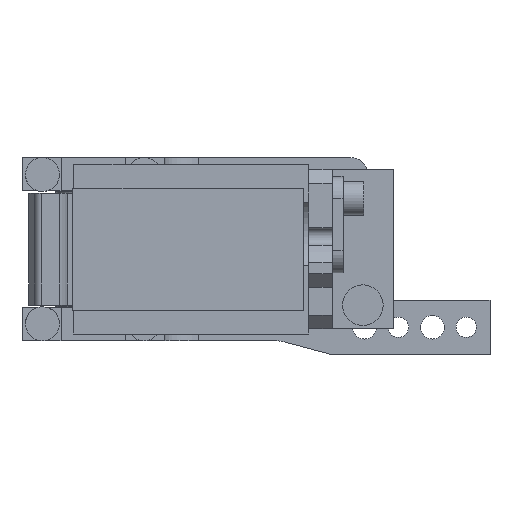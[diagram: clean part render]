
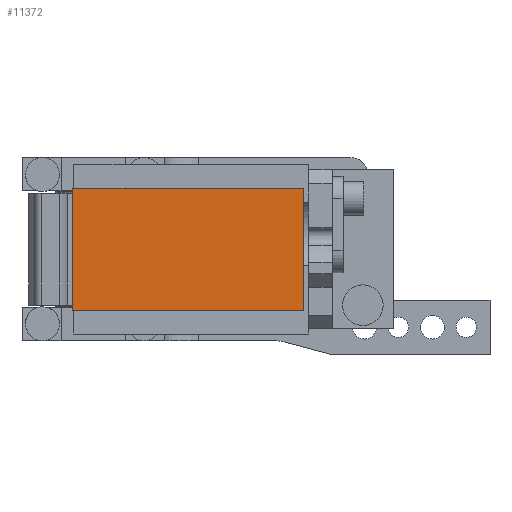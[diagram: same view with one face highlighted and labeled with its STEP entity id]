
A CAD part, front view. The second image highlights one B-rep face of the part: STEP entity #11372.
In plain terms, the highlighted planar face has unit normal (0, -1, 0).
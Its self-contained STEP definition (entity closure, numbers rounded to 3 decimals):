
#168 = AXIS2_PLACEMENT_3D ( 'NONE', #5658, #9067, #6812 ) ;
#414 = LINE ( 'NONE', #2717, #13204 ) ;
#854 = EDGE_LOOP ( 'NONE', ( #2068, #2301, #13724, #7674 ) ) ;
#1333 = DIRECTION ( 'NONE',  ( 0., 0., -1. ) ) ;
#2068 = ORIENTED_EDGE ( 'NONE', *, *, #8381, .T. ) ;
#2301 = ORIENTED_EDGE ( 'NONE', *, *, #8439, .T. ) ;
#2717 = CARTESIAN_POINT ( 'NONE',  ( -6., -233., 18. ) ) ;
#2744 = DIRECTION ( 'NONE',  ( 0., 0., 1. ) ) ;
#3299 = CARTESIAN_POINT ( 'NONE',  ( -6., -233., 18. ) ) ;
#3702 = FACE_OUTER_BOUND ( 'NONE', #854, .T. ) ;
#4639 = PLANE ( 'NONE',  #168 ) ;
#5658 = CARTESIAN_POINT ( 'NONE',  ( 0., -233., 0. ) ) ;
#5802 = CARTESIAN_POINT ( 'NONE',  ( -6., -233., 18. ) ) ;
#6006 = LINE ( 'NONE', #13658, #11370 ) ;
#6480 = LINE ( 'NONE', #3299, #11202 ) ;
#6518 = VECTOR ( 'NONE', #13496, 1000. ) ;
#6812 = DIRECTION ( 'NONE',  ( 0., 0., -1. ) ) ;
#6945 = VERTEX_POINT ( 'NONE', #10347 ) ;
#7007 = VERTEX_POINT ( 'NONE', #7269 ) ;
#7269 = CARTESIAN_POINT ( 'NONE',  ( -6., -233., -18. ) ) ;
#7328 = CARTESIAN_POINT ( 'NONE',  ( 62., -233., 18. ) ) ;
#7674 = ORIENTED_EDGE ( 'NONE', *, *, #11711, .T. ) ;
#8187 = VERTEX_POINT ( 'NONE', #7328 ) ;
#8381 = EDGE_CURVE ( 'NONE', #12044, #7007, #414, .T. ) ;
#8439 = EDGE_CURVE ( 'NONE', #7007, #6945, #10183, .T. ) ;
#9007 = EDGE_CURVE ( 'NONE', #6945, #8187, #6006, .T. ) ;
#9067 = DIRECTION ( 'NONE',  ( 0., -1., 0. ) ) ;
#9111 = CARTESIAN_POINT ( 'NONE',  ( -6., -233., -18. ) ) ;
#10183 = LINE ( 'NONE', #9111, #6518 ) ;
#10347 = CARTESIAN_POINT ( 'NONE',  ( 62., -233., -18. ) ) ;
#11202 = VECTOR ( 'NONE', #14281, 1000. ) ;
#11370 = VECTOR ( 'NONE', #2744, 1000. ) ;
#11372 = ADVANCED_FACE ( 'NONE', ( #3702 ), #4639, .T. ) ;
#11711 = EDGE_CURVE ( 'NONE', #8187, #12044, #6480, .T. ) ;
#12044 = VERTEX_POINT ( 'NONE', #5802 ) ;
#13204 = VECTOR ( 'NONE', #1333, 1000. ) ;
#13496 = DIRECTION ( 'NONE',  ( 1., 0., 0. ) ) ;
#13658 = CARTESIAN_POINT ( 'NONE',  ( 62., -233., 18. ) ) ;
#13724 = ORIENTED_EDGE ( 'NONE', *, *, #9007, .T. ) ;
#14281 = DIRECTION ( 'NONE',  ( -1., 0., 0. ) ) ;
